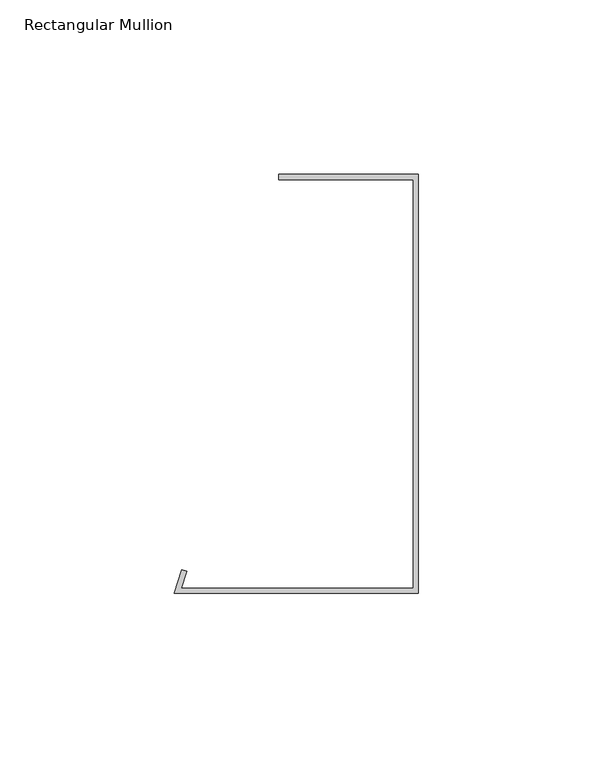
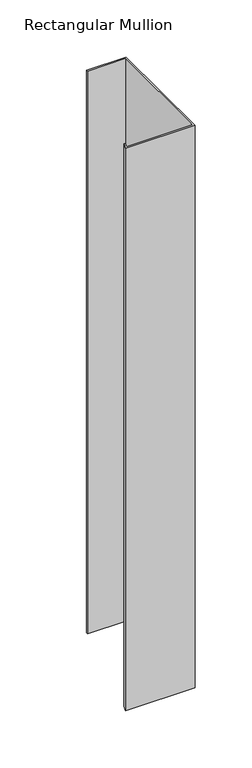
"""IFC4 building model written with IfcOpenShell, lengths in millimetres: member geometry, Rectangular Mullion : Danpal_VRS_Top-Mullion."""

import ifcopenshell
import ifcopenshell.guid

model = None  # the IFC model being written
_history = None  # IfcOwnerHistory: only IFC2X3 demands one
_inside = {}  # id of a spatial element -> (the spatial element, [elements in it])
_under = {}  # id of a project, library or spatial element -> (it, [spatial elements below it])
_declared = {}  # id of a project -> (the project, [libraries it declares])
_typed = {}  # id of a type object -> (the type object, [elements of that type])
_made_of = {}  # id of a material, layer set ... -> (it, [elements and type objects made of it])


def new_model(schema):
    """Start an empty IFC model of exactly this schema.

    Asked for "IFC4X3", IfcOpenShell would pick the latest addendum, in which some entities
    have other attributes; the version numbers below select the first issue.
    IFC2X3 requires an IfcOwnerHistory on every rooted entity: one is made here for all.
    """
    global model, _history
    if schema == "IFC4X3":
        model = ifcopenshell.file(schema_version=(4, 3, 0, 0))
    else:
        model = ifcopenshell.file(schema=schema)
    _inside.clear()
    _under.clear()
    _declared.clear()
    _typed.clear()
    _made_of.clear()
    _history = None
    if model.schema == "IFC2X3":
        org = make("IfcOrganization", Name="unknown")
        user = make(
            "IfcPersonAndOrganization",
            ThePerson=make("IfcPerson", FamilyName="unknown"),
            TheOrganization=org,
        )
        app = make(
            "IfcApplication",
            ApplicationDeveloper=org,
            Version="unknown",
            ApplicationFullName="unknown",
            ApplicationIdentifier="unknown",
        )
        _history = make(
            "IfcOwnerHistory",
            OwningUser=user,
            OwningApplication=app,
            ChangeAction="ADDED",
            CreationDate=0,
        )
    return model


def make(cls, **values):
    """One entity of the class cls with the attributes given. An attribute that is None is left unset."""
    return model.create_entity(
        cls, **{name: value for name, value in values.items() if value is not None}
    )


def rooted(cls, **values):
    """An entity with a GlobalId (a new one), such as an element, a storey or a relation."""
    return make(cls, GlobalId=ifcopenshell.guid.new(), OwnerHistory=_history, **values)


def si_unit(unit_type, name, prefix=None):
    """IfcSIUnit, for example si_unit("LENGTHUNIT", "METRE", prefix="MILLI")."""
    return make("IfcSIUnit", UnitType=unit_type, Prefix=prefix, Name=name)


def assignment(units):
    """IfcUnitAssignment: the units of a project."""
    return None if units is None else make("IfcUnitAssignment", Units=units)


def point(xyz):
    """IfcCartesianPoint."""
    return None if xyz is None else make("IfcCartesianPoint", Coordinates=xyz)


def direction(xyz):
    """IfcDirection."""
    return None if xyz is None else make("IfcDirection", DirectionRatios=xyz)


def frame(location, z_axis=None, x_axis=None):
    """IfcAxis2Placement3D, a coordinate frame: its origin and axes. An axis left out is left unset."""
    return make(
        "IfcAxis2Placement3D",
        Location=point(location),
        Axis=direction(z_axis),
        RefDirection=direction(x_axis),
    )


def origin():
    """The frame at (0, 0, 0) with its axes left unset."""
    return frame((0.0, 0.0, 0.0))


def place(relative_to, where):
    """IfcLocalPlacement: puts the frame where relative to a parent placement (None: the world)."""
    return make(
        "IfcLocalPlacement", PlacementRelTo=relative_to, RelativePlacement=where
    )


def context(
    kind, dimensions, precision=None, world=None, true_north=None, identifier=None
):
    """IfcGeometricRepresentationContext, for example the 3D "Model" context."""
    return make(
        "IfcGeometricRepresentationContext",
        ContextIdentifier=identifier,
        ContextType=kind,
        CoordinateSpaceDimension=dimensions,
        Precision=precision,
        WorldCoordinateSystem=world,
        TrueNorth=true_north,
    )


def project(units=None, contexts=None):
    """IfcProject with its units and contexts."""
    return rooted(
        "IfcProject",
        Name="project",
        RepresentationContexts=contexts,
        UnitsInContext=assignment(units),
    )


def spatial(cls, under=None, at=None, **own):
    """A site, building, storey or space (cls), placed at a placement, below another one or the project."""
    s = rooted(cls, ObjectPlacement=at, **own)
    if under is not None:
        _under.setdefault(under.id(), (under, []))[1].append(s)
    return s


def polyline(points):
    """IfcPolyline through the points."""
    return make("IfcPolyline", Points=[point(p) for p in points])


def outline(outer, holes=None, kind="AREA"):
    """IfcArbitraryClosedProfileDef: a profile drawn as a closed curve; with holes, ...WithVoids."""
    if holes is None:
        return make("IfcArbitraryClosedProfileDef", ProfileType=kind, OuterCurve=outer)
    return make(
        "IfcArbitraryProfileDefWithVoids",
        ProfileType=kind,
        OuterCurve=outer,
        InnerCurves=holes,
    )


def extrude(swept, where, along, depth):
    """IfcExtrudedAreaSolid: the profile swept, set in the frame where, extruded along a direction by depth."""
    return make(
        "IfcExtrudedAreaSolid",
        SweptArea=swept,
        Position=where,
        ExtrudedDirection=direction(along),
        Depth=depth,
    )


def shape(context_of_items, identifier, shape_type, items):
    """IfcShapeRepresentation: the items that make up one representation, for example the "Body"."""
    return make(
        "IfcShapeRepresentation",
        ContextOfItems=context_of_items,
        RepresentationIdentifier=identifier,
        RepresentationType=shape_type,
        Items=items,
    )


def source(mapping_origin, context_of_items, identifier, shape_type, items):
    """IfcRepresentationMap: a shape defined once, which mapped items show again and again."""
    return make(
        "IfcRepresentationMap",
        MappingOrigin=mapping_origin,
        MappedRepresentation=shape(context_of_items, identifier, shape_type, items),
    )


def transform(
    local_origin,
    x_axis=None,
    y_axis=None,
    z_axis=None,
    scale=None,
    scale2=None,
    scale3=None,
    uniform=True,
):
    """IfcCartesianTransformationOperator3D, or its non-uniform kind. x_axis, y_axis, z_axis: its Axis1, 2, 3."""
    if uniform:
        return make(
            "IfcCartesianTransformationOperator3D",
            Axis1=direction(x_axis),
            Axis2=direction(y_axis),
            LocalOrigin=point(local_origin),
            Scale=scale,
            Axis3=direction(z_axis),
        )
    return make(
        "IfcCartesianTransformationOperator3DnonUniform",
        Axis1=direction(x_axis),
        Axis2=direction(y_axis),
        LocalOrigin=point(local_origin),
        Scale=scale,
        Axis3=direction(z_axis),
        Scale2=scale2,
        Scale3=scale3,
    )


def mapped(mapping_source, mapping_target):
    """IfcMappedItem: shows the shape of a source again, moved by a transform."""
    return make(
        "IfcMappedItem", MappingSource=mapping_source, MappingTarget=mapping_target
    )


def made_of(thing, what):
    """Note that an element or type object is made of a material, layer set ...; save() writes the relation."""
    if what is not None:
        _made_of.setdefault(what.id(), (what, []))[1].append(thing)
    return thing


def element(
    cls,
    number,
    at=None,
    inside=None,
    cuts=None,
    type_object=None,
    material=None,
    context=None,
    identifier="Body",
    shape_type=None,
    held_by="IfcProductDefinitionShape",
    body=None,
    shapes=None,
    **own,
):
    """One element of the class cls, such as IfcWall. Its Tag is "e" and its number.

    at: its placement. inside: the storey or other place that contains it. cuts: it is an
    opening in that element (IfcRelVoidsElement). A single representation is given by context,
    identifier, shape_type and body (its items); several are given by shapes. held_by: the class
    of the entity that holds the representations. save() writes the other relations.
    """
    e = rooted(cls, Tag="e%d" % number, ObjectPlacement=at, **own)
    if body is not None:
        shapes = [shape(context, identifier, shape_type, body)]
    if shapes is not None:
        e.Representation = make(held_by, Representations=shapes)
    if inside is not None:
        _inside.setdefault(inside.id(), (inside, []))[1].append(e)
    if cuts is not None:
        rooted(
            "IfcRelVoidsElement", RelatingBuildingElement=cuts, RelatedOpeningElement=e
        )
    if type_object is not None:
        _typed.setdefault(type_object.id(), (type_object, []))[1].append(e)
    return made_of(e, material)


def aggregate(whole, parts):
    """IfcRelAggregates: a whole, such as a stair, and the parts it consists of."""
    return rooted("IfcRelAggregates", RelatingObject=whole, RelatedObjects=parts)


def save(model, path):
    """Write the relations noted so far, then the file.

    IfcRelAggregates (storeys below a building ...), IfcRelContainedInSpatialStructure (elements
    in a storey), IfcRelDefinesByType, IfcRelAssociatesMaterial and IfcRelDeclares: one each for
    every whole, place, type object, material and project.
    """
    for whole, parts in _under.values():
        aggregate(whole, parts)
    for where, things in _inside.values():
        rooted(
            "IfcRelContainedInSpatialStructure",
            RelatedElements=things,
            RelatingStructure=where,
        )
    for kind, things in _typed.values():
        rooted("IfcRelDefinesByType", RelatedObjects=things, RelatingType=kind)
    for what, things in _made_of.values():
        rooted("IfcRelAssociatesMaterial", RelatedObjects=things, RelatingMaterial=what)
    for by, libraries in _declared.values():
        rooted("IfcRelDeclares", RelatingContext=by, RelatedDefinitions=libraries)
    model.write(path)


def rectangular_mullion_af15ca39(model_context):
    return source(origin(), model_context, "Body", "SweptSolid", [
        extrude(outline(polyline([(-67.9638912, -5.7223798), (-1.5067119, -5.7261384), (-1.500085, 111.4490233), (-40.0000849, 111.4512007), (-39.9999999, 112.9534463), (0.0, 112.9511841), (-0.0067968, -7.2284689), (-70.0067967, -7.22451), (-67.8977574, -0.494831), (-66.4665939, -0.9446924), (-67.9638912, -5.7223798)])), frame((0.0, 0.0, -601.0), z_axis=(0.0, 0.0, 1.0), x_axis=(1.0, 0.0, 0.0)), (0.0, 0.0, 1.0), 601.0),
    ])


if __name__ == "__main__":
    model = new_model("IFC4")
    model_context = context("Model", 3, world=origin())
    ifc_project = project(units=[si_unit("LENGTHUNIT", "METRE", prefix="MILLI")], contexts=[model_context])
    site = spatial("IfcSite", under=ifc_project)
    building = spatial("IfcBuilding", under=site)
    placement = place(None, origin())
    rectangular_mullion_shape = rectangular_mullion_af15ca39(model_context)
    element("IfcMember", 1, ObjectType="Rectangular Mullion : Danpal_VRS_Top-Mullion", at=placement, inside=building, context=model_context, shape_type="MappedRepresentation", body=[
        mapped(rectangular_mullion_shape, transform((0.0, 0.0, 0.0), x_axis=(1.0, 0.0, 0.0), y_axis=(0.0, 1.0, 0.0), z_axis=(0.0, 0.0, 1.0))),
    ])
    save(model, "model.ifc")
